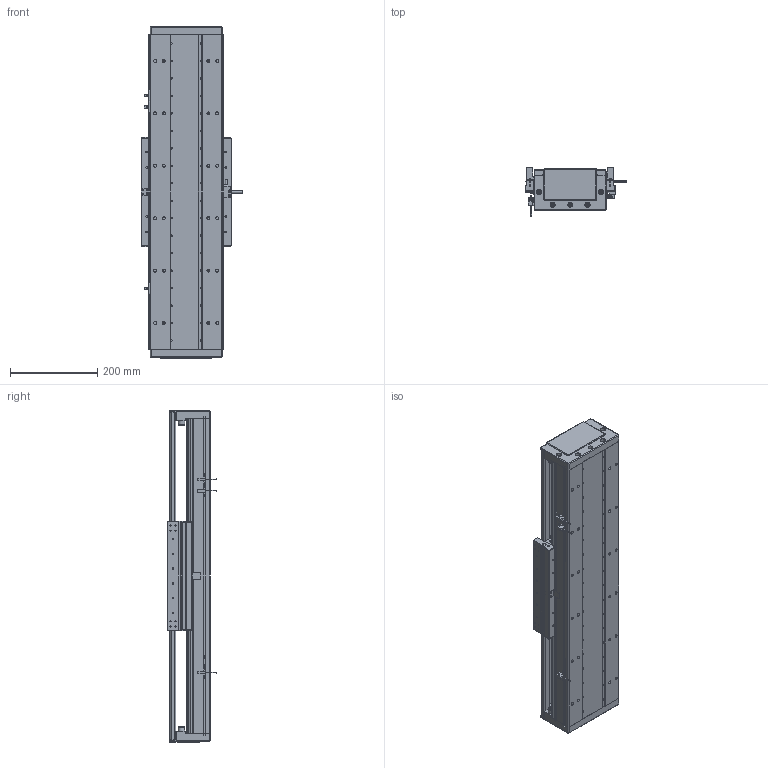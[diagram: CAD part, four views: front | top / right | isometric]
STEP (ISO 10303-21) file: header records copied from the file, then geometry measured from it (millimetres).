
FILE_DESCRIPTION (( 'STEP AP203' ), '1' );
FILE_NAME ('DA-C165-C3-T420-C010-0.2 直线电机.STEP', '2023-06-13T08:39:02', ( '微软用户' ), ( '微软中国' ), 'SwSTEP 2.0', 'SolidWorks 2019', '' );
FILE_SCHEMA (( 'CONFIG_CONTROL_DESIGN' ));
Length unit declared in the file: millimetre
Products named in the file (15): 复件 DA95-HXJ-00 缓冲橡胶^DA-C165-C3-T-C010-0.2-N 直线电机; 葩璃 CKM01-W075-TRL^DA-C165-C3-T-C010-0.2-N 眻盄萇儂; 葩璃 PM-T45^DA-C165-C3-T-C010-0.2-N 眻盄萇儂; 复件 DA165-T-002-00 盖板^DA-C165-C3-T-C010-0.2-N 直线电机_0840-002-00; 葩璃 DA95-GT-T-00^IU-CU165-L 菁釱絳寢_T; 复件 DMA-010-0.2 读数头^DA-C165-C3-T-C010-0.2-N 直线电机; 复件 DA165-GYP-00 光电感应片^DA-C165-C3-T-C010-0.2-N 直线电机; 复件 六角薄螺母 M3^DA-C165-C3-T-C010-0.2-N 直线电机_GB_FASTENER_NUT_STNAB M3-C; IU-CU165-L 菁釱絳寢; 复件 DA165-DG-H-N-00 端盖^DA-C165-C3-T-C010-0.2-N 直线电机; 葩璃 CKM03-W075-C1C2-TP-3.0^DA-C165-C3-T-C010-0.2-N 眻盄萇儂; 珨极趙賑雄怢啣C3-wf; 复件 CU165 底座^IU-CU165-L 底座导轨_L720; DA-C165-C3-T420-C010-0.2 眻盄萇儂; 复件 XD-U-02L 磁栅尺^DA-C165-C3-T-C010-0.2-N 直线电机_T
Assembly tree (30 placements, depth 3):
  DA-C165-C3-T420-C010-0.2 眻盄萇儂
    IU-CU165-L 菁釱絳寢
      复件 CU165 底座^IU-CU165-L 底座导轨_L720
      葩璃 DA95-GT-T-00^IU-CU165-L 菁釱絳寢_T  x4
    复件 DA165-DG-H-N-00 端盖^DA-C165-C3-T-C010-0.2-N 直线电机  x2
    复件 DA95-HXJ-00 缓冲橡胶^DA-C165-C3-T-C010-0.2-N 直线电机  x4
    复件 DA165-T-002-00 盖板^DA-C165-C3-T-C010-0.2-N 直线电机_0840-002-00
    复件 XD-U-02L 磁栅尺^DA-C165-C3-T-C010-0.2-N 直线电机_T
    葩璃 PM-T45^DA-C165-C3-T-C010-0.2-N 眻盄萇儂  x3
    葩璃 CKM01-W075-TRL^DA-C165-C3-T-C010-0.2-N 眻盄萇儂
    复件 DA165-GYP-00 光电感应片^DA-C165-C3-T-C010-0.2-N 直线电机
    复件 DMA-010-0.2 读数头^DA-C165-C3-T-C010-0.2-N 直线电机
    葩璃 CKM03-W075-C1C2-TP-3.0^DA-C165-C3-T-C010-0.2-N 眻盄萇儂
    复件 六角薄螺母 M3^DA-C165-C3-T-C010-0.2-N 直线电机_GB_FASTENER_NUT_STNAB M3-C  x8
    珨极趙賑雄怢啣C3-wf
Bounding box: 233 x 111.45 x 760 mm (x, y, z)
Volume: 6675111.7 mm3; surface area: 1700916.9 mm2
Topology: 68 solids, 118 shells, 3391 faces, 8890 edges, 5478 vertices
Faces by surface type: cylinder 1618, plane 1163, cone 552, torus 54, sphere 4
Entity records: 96865 total; most frequent: CARTESIAN_POINT 21762, DIRECTION 15714, ORIENTED_EDGE 14834, EDGE_CURVE 7417, AXIS2_PLACEMENT_3D 5936, VERTEX_POINT 4766, LINE 3842, VECTOR 3842
